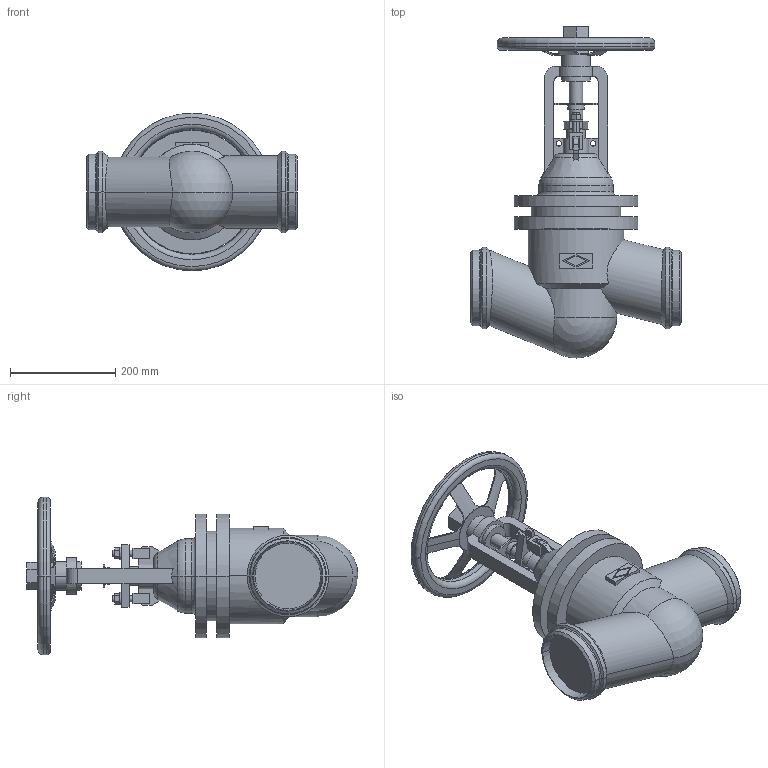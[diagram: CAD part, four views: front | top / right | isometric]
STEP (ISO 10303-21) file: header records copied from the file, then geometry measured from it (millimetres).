
FILE_DESCRIPTION(('OneSpaceDesigner STEP Export'),'2;1');
FILE_NAME('c000004329.stp','2010-05-06T10:47:40',(''),(''),'OneSpace Designer STEP processor for AP214 (Solid Model)','OneSpace Modeling 15.50B 03-Nov-2007 (C) CoCreate Software GmbH','');
FILE_SCHEMA(('AUTOMOTIVE_DESIGN { 1 0 10303 214 1 1 1 1 }'));
Length unit declared in the file: millimetre
Products named in the file (1): 1
Bounding box: 400 x 631.69 x 300 mm (x, y, z)
Volume: 13082008.8 mm3; surface area: 656917.5 mm2
Topology: 1 solids, 1 shells, 307 faces, 831 edges, 537 vertices
Faces by surface type: plane 141, cylinder 114, cone 28, torus 22, sphere 2
Entity records: 12786 total; most frequent: CARTESIAN_POINT 3213, ORIENTED_EDGE 1642, DIRECTION 1265, EDGE_CURVE 821, VERTEX_POINT 533, AXIS2_PLACEMENT_3D 431, VECTOR 403, LINE 403
